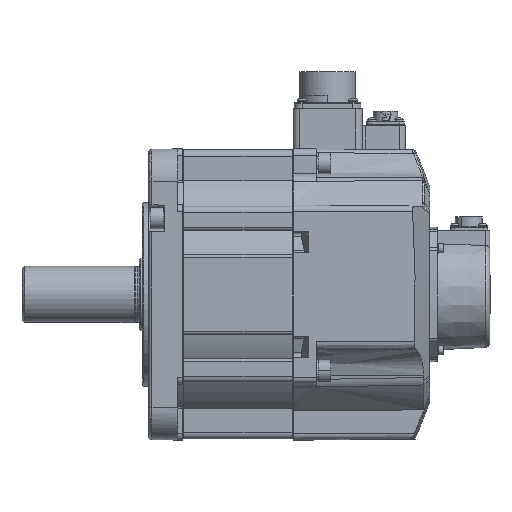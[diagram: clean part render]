
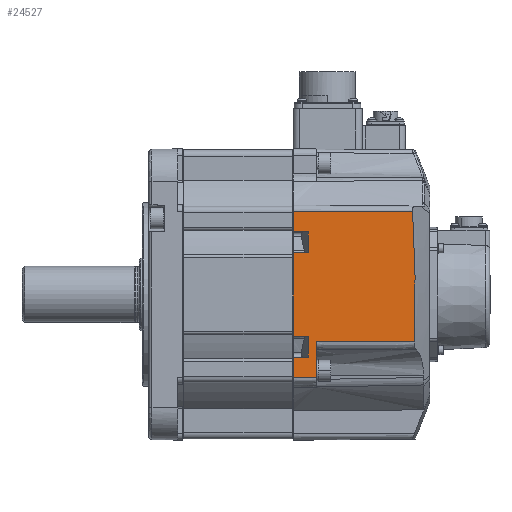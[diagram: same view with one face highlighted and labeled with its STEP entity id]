
A CAD part, left-side view. The second image highlights one B-rep face of the part: STEP entity #24527.
In plain terms, the highlighted planar face has unit normal (-1, -0.009, 0).
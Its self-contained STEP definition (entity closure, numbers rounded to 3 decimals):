
#1186=DIRECTION('',(0.,0.,-1.));
#1187=VECTOR('',#1186,12.75);
#1188=CARTESIAN_POINT('',(-90.746,-63.3,51.75));
#1189=LINE('',#1188,#1187);
#1190=DIRECTION('',(0.,0.,-1.));
#1191=VECTOR('',#1190,52.);
#1192=CARTESIAN_POINT('',(-90.746,-63.3,26.));
#1193=LINE('',#1192,#1191);
#1194=DIRECTION('',(0.,0.,-1.));
#1195=VECTOR('',#1194,12.75);
#1196=CARTESIAN_POINT('',(-90.746,-63.3,-39.));
#1197=LINE('',#1196,#1195);
#2987=DIRECTION('',(0.,0.,1.));
#2988=VECTOR('',#2987,22.417);
#2989=CARTESIAN_POINT('',(-90.619,-77.8,-51.75));
#2990=LINE('',#2989,#2988);
#3070=DIRECTION('',(0.009,-1.,0.));
#3071=VECTOR('',#3070,14.501);
#3072=CARTESIAN_POINT('',(-90.746,-63.3,-51.75));
#3073=LINE('',#3072,#3071);
#3083=DIRECTION('',(0.009,-1.,0.));
#3084=VECTOR('',#3083,9.5);
#3085=CARTESIAN_POINT('',(-90.746,-63.3,-39.));
#3086=LINE('',#3085,#3084);
#3087=DIRECTION('',(0.,0.,-1.));
#3088=VECTOR('',#3087,13.);
#3089=CARTESIAN_POINT('',(-90.663,-72.8,-26.));
#3090=LINE('',#3089,#3088);
#3091=DIRECTION('',(0.009,-1.,0.));
#3092=VECTOR('',#3091,9.5);
#3093=CARTESIAN_POINT('',(-90.746,-63.3,-26.));
#3094=LINE('',#3093,#3092);
#3095=DIRECTION('',(0.009,-1.,0.));
#3096=VECTOR('',#3095,9.5);
#3097=CARTESIAN_POINT('',(-90.746,-63.3,26.));
#3098=LINE('',#3097,#3096);
#3099=DIRECTION('',(0.,0.,-1.));
#3100=VECTOR('',#3099,13.);
#3101=CARTESIAN_POINT('',(-90.663,-72.8,39.));
#3102=LINE('',#3101,#3100);
#3103=DIRECTION('',(0.009,-1.,0.));
#3104=VECTOR('',#3103,9.5);
#3105=CARTESIAN_POINT('',(-90.746,-63.3,39.));
#3106=LINE('',#3105,#3104);
#3107=CARTESIAN_POINT('',(-90.086,-138.866,
-29.502));
#3108=CARTESIAN_POINT('',(-90.086,-138.934,
-27.567));
#3109=CARTESIAN_POINT('',(-90.085,-139.056,
-23.697));
#3110=CARTESIAN_POINT('',(-90.083,-139.199,
-17.896));
#3111=CARTESIAN_POINT('',(-90.082,-139.303,
-12.097));
#3112=CARTESIAN_POINT('',(-90.082,-139.366,
-6.297));
#3113=CARTESIAN_POINT('',(-90.082,-139.39,
-0.496));
#3114=CARTESIAN_POINT('',(-90.082,-139.373,
5.305));
#3115=CARTESIAN_POINT('',(-90.082,-139.316,
11.106));
#3116=CARTESIAN_POINT('',(-90.083,-139.22,
16.905));
#3117=CARTESIAN_POINT('',(-90.084,-139.083,
22.705));
#3118=CARTESIAN_POINT('',(-90.086,-138.907,
28.509));
#3119=CARTESIAN_POINT('',(-90.088,-138.691,
34.315));
#3120=CARTESIAN_POINT('',(-90.09,-138.437,
40.123));
#3121=CARTESIAN_POINT('',(-90.092,-138.143,
45.934));
#3122=CARTESIAN_POINT('',(-90.094,-137.922,
49.811));
#3123=CARTESIAN_POINT('',(-90.095,-137.805,51.75));
#3125=CARTESIAN_POINT('',(-90.619,-77.8,-29.333));
#3126=CARTESIAN_POINT('',(-90.56,-84.621,
-29.351));
#3127=CARTESIAN_POINT('',(-90.441,-98.239,
-29.388));
#3128=CARTESIAN_POINT('',(-90.263,-118.596,
-29.445));
#3129=CARTESIAN_POINT('',(-90.145,-132.117,
-29.483));
#3130=CARTESIAN_POINT('',(-90.086,-138.866,
-29.502));
#3289=CARTESIAN_POINT('',(-90.095,-137.805,51.75));
#3317=DIRECTION('',(-0.009,1.,0.));
#3318=VECTOR('',#3317,74.508);
#3319=CARTESIAN_POINT('',(-90.095,-137.805,51.75));
#3320=LINE('',#3319,#3318);
#18816=CARTESIAN_POINT('',(-90.663,-72.8,-26.));
#18817=VERTEX_POINT('',#18816);
#18818=CARTESIAN_POINT('',(-90.663,-72.8,26.));
#18819=VERTEX_POINT('',#18818);
#18820=CARTESIAN_POINT('',(-90.663,-72.8,-39.));
#18821=VERTEX_POINT('',#18820);
#18822=CARTESIAN_POINT('',(-90.663,-72.8,39.));
#18823=VERTEX_POINT('',#18822);
#18840=CARTESIAN_POINT('',(-90.746,-63.3,-39.));
#18841=VERTEX_POINT('',#18840);
#18842=CARTESIAN_POINT('',(-90.746,-63.3,-26.));
#18843=VERTEX_POINT('',#18842);
#18844=CARTESIAN_POINT('',(-90.746,-63.3,39.));
#18845=VERTEX_POINT('',#18844);
#18846=CARTESIAN_POINT('',(-90.746,-63.3,26.));
#18847=VERTEX_POINT('',#18846);
#19074=VERTEX_POINT('',#3289);
#19102=CARTESIAN_POINT('',(-90.746,-63.3,-51.75));
#19104=VERTEX_POINT('',#19102);
#19107=CARTESIAN_POINT('',(-90.746,-63.3,51.75));
#19109=VERTEX_POINT('',#19107);
#19136=CARTESIAN_POINT('',(-90.619,-77.8,-51.75));
#19138=VERTEX_POINT('',#19136);
#19163=VERTEX_POINT('',#3107);
#19236=VERTEX_POINT('',#3125);
#24498=CARTESIAN_POINT('',(-90.75,-62.8,-60.786));
#24499=DIRECTION('',(-1.,-0.009,0.));
#24500=DIRECTION('',(0.,0.,1.));
#24501=AXIS2_PLACEMENT_3D('',#24498,#24499,#24500);
#24502=PLANE('',#24501);
#24503=ORIENTED_EDGE('',*,*,#24427,.F.);
#24504=ORIENTED_EDGE('',*,*,#24491,.F.);
#24505=ORIENTED_EDGE('',*,*,#22553,.F.);
#24507=ORIENTED_EDGE('',*,*,#24506,.T.);
#24509=ORIENTED_EDGE('',*,*,#24508,.F.);
#24511=ORIENTED_EDGE('',*,*,#24510,.F.);
#24512=ORIENTED_EDGE('',*,*,#22541,.F.);
#24514=ORIENTED_EDGE('',*,*,#24513,.T.);
#24516=ORIENTED_EDGE('',*,*,#24515,.F.);
#24518=ORIENTED_EDGE('',*,*,#24517,.F.);
#24519=ORIENTED_EDGE('',*,*,#22529,.F.);
#24521=ORIENTED_EDGE('',*,*,#24520,.F.);
#24522=ORIENTED_EDGE('',*,*,#24362,.F.);
#24524=ORIENTED_EDGE('',*,*,#24523,.F.);
#24525=EDGE_LOOP('',(#24503,#24504,#24505,#24507,#24509,#24511,#24512,#24514,
#24516,#24518,#24519,#24521,#24522,#24524));
#24526=FACE_OUTER_BOUND('',#24525,.F.);
#24527=ADVANCED_FACE('',(#24526),#24502,.T.);
#3124=B_SPLINE_CURVE_WITH_KNOTS('',3,(#3107,#3108,#3109,#3110,#3111,#3112,#3113,
#3114,#3115,#3116,#3117,#3118,#3119,#3120,#3121,#3122,#3123),.UNSPECIFIED.,.F.,
.F.,(4,1,1,1,1,1,1,1,1,1,1,1,1,1,4),(0.,0.071,0.143,
0.214,0.286,0.357,0.429,0.5,
0.571,0.643,0.714,0.786,
0.857,0.929,1.),.UNSPECIFIED.);
#3131=B_SPLINE_CURVE_WITH_KNOTS('',3,(#3125,#3126,#3127,#3128,#3129,#3130),
.UNSPECIFIED.,.F.,.F.,(4,1,1,4),(0.,0.333,0.667,1.),
.UNSPECIFIED.);
#22529=EDGE_CURVE('',#19109,#18845,#1189,.T.);
#22541=EDGE_CURVE('',#18847,#18843,#1193,.T.);
#22553=EDGE_CURVE('',#18841,#19104,#1197,.T.);
#24362=EDGE_CURVE('',#19163,#19074,#3124,.T.);
#24427=EDGE_CURVE('',#19138,#19236,#2990,.T.);
#24491=EDGE_CURVE('',#19104,#19138,#3073,.T.);
#24506=EDGE_CURVE('',#18841,#18821,#3086,.T.);
#24508=EDGE_CURVE('',#18817,#18821,#3090,.T.);
#24510=EDGE_CURVE('',#18843,#18817,#3094,.T.);
#24513=EDGE_CURVE('',#18847,#18819,#3098,.T.);
#24515=EDGE_CURVE('',#18823,#18819,#3102,.T.);
#24517=EDGE_CURVE('',#18845,#18823,#3106,.T.);
#24520=EDGE_CURVE('',#19074,#19109,#3320,.T.);
#24523=EDGE_CURVE('',#19236,#19163,#3131,.T.);
